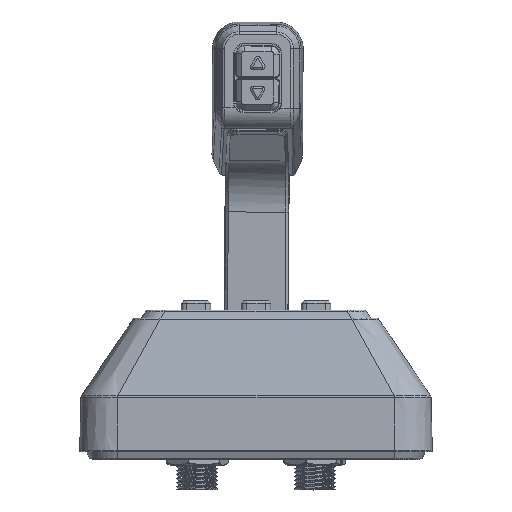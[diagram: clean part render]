
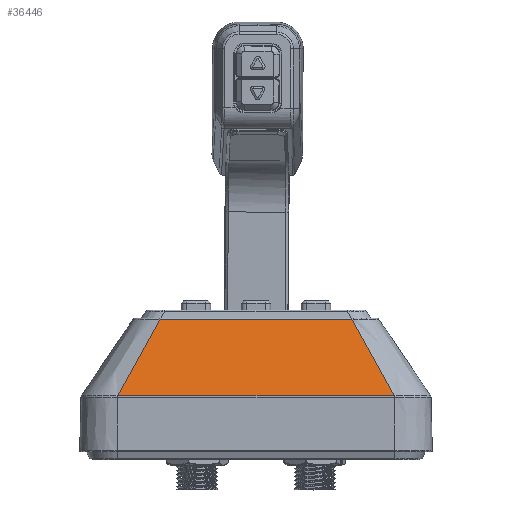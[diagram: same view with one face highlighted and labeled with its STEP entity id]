
A CAD part, left-side view. The second image highlights one B-rep face of the part: STEP entity #36446.
In plain terms, the highlighted planar face has unit normal (-0.978, 0, 0.211).
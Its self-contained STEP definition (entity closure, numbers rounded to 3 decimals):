
#424 = CARTESIAN_POINT ( 'NONE',  ( -29.856, -35.979, 31.954 ) ) ;
#1181 = EDGE_CURVE ( 'NONE', #32180, #1212, #19494, .T. ) ;
#1212 = VERTEX_POINT ( 'NONE', #424 ) ;
#3574 = VECTOR ( 'NONE', #14695, 1000. ) ;
#6754 = DIRECTION ( 'NONE',  ( 0., -1., 0. ) ) ;
#6778 = ORIENTED_EDGE ( 'NONE', *, *, #47933, .F. ) ;
#10803 = CARTESIAN_POINT ( 'NONE',  ( -29.856, 35.979, 31.954 ) ) ;
#14695 = DIRECTION ( 'NONE',  ( 0., 1., 0. ) ) ;
#15464 = ORIENTED_EDGE ( 'NONE', *, *, #47443, .F. ) ;
#18184 = VERTEX_POINT ( 'NONE', #57258 ) ;
#19494 = LINE ( 'NONE', #19883, #26426 ) ;
#19883 = CARTESIAN_POINT ( 'NONE',  ( -29.856, 35.979, 31.954 ) ) ;
#25441 = ORIENTED_EDGE ( 'NONE', *, *, #1181, .F. ) ;
#26159 = CARTESIAN_POINT ( 'NONE',  ( -29.856, -35.979, 31.954 ) ) ;
#26426 = VECTOR ( 'NONE', #6754, 1000. ) ;
#30869 = AXIS2_PLACEMENT_3D ( 'NONE', #65455, #52533, #66810 ) ;
#31068 = ORIENTED_EDGE ( 'NONE', *, *, #55433, .F. ) ;
#32148 = DIRECTION ( 'NONE',  ( 0.185, -0.476, 0.86 ) ) ;
#32180 = VERTEX_POINT ( 'NONE', #10803 ) ;
#32728 = VERTEX_POINT ( 'NONE', #37830 ) ;
#33603 = PLANE ( 'NONE',  #30869 ) ;
#36446 = ADVANCED_FACE ( 'NONE', ( #39049 ), #33603, .F. ) ;
#36912 = LINE ( 'NONE', #75555, #3574 ) ;
#37261 = EDGE_LOOP ( 'NONE', ( #25441, #6778, #15464, #31068 ) ) ;
#37830 = CARTESIAN_POINT ( 'NONE',  ( -36.01, 51.802, 3.384 ) ) ;
#38953 = CARTESIAN_POINT ( 'NONE',  ( -36.01, 51.802, 3.384 ) ) ;
#39049 = FACE_OUTER_BOUND ( 'NONE', #37261, .T. ) ;
#47443 = EDGE_CURVE ( 'NONE', #18184, #32728, #36912, .T. ) ;
#47933 = EDGE_CURVE ( 'NONE', #32728, #32180, #56439, .T. ) ;
#52533 = DIRECTION ( 'NONE',  ( 0.978, 0., -0.211 ) ) ;
#54071 = VECTOR ( 'NONE', #57453, 1000. ) ;
#55433 = EDGE_CURVE ( 'NONE', #1212, #18184, #79534, .T. ) ;
#56439 = LINE ( 'NONE', #38953, #57462 ) ;
#57258 = CARTESIAN_POINT ( 'NONE',  ( -36.01, -51.802, 3.384 ) ) ;
#57453 = DIRECTION ( 'NONE',  ( -0.185, -0.476, -0.86 ) ) ;
#57462 = VECTOR ( 'NONE', #32148, 1000. ) ;
#65455 = CARTESIAN_POINT ( 'NONE',  ( -32.91, 0., 17.776 ) ) ;
#66810 = DIRECTION ( 'NONE',  ( -0.211, 0., -0.978 ) ) ;
#75555 = CARTESIAN_POINT ( 'NONE',  ( -36.01, 0., 3.384 ) ) ;
#79534 = LINE ( 'NONE', #26159, #54071 ) ;
